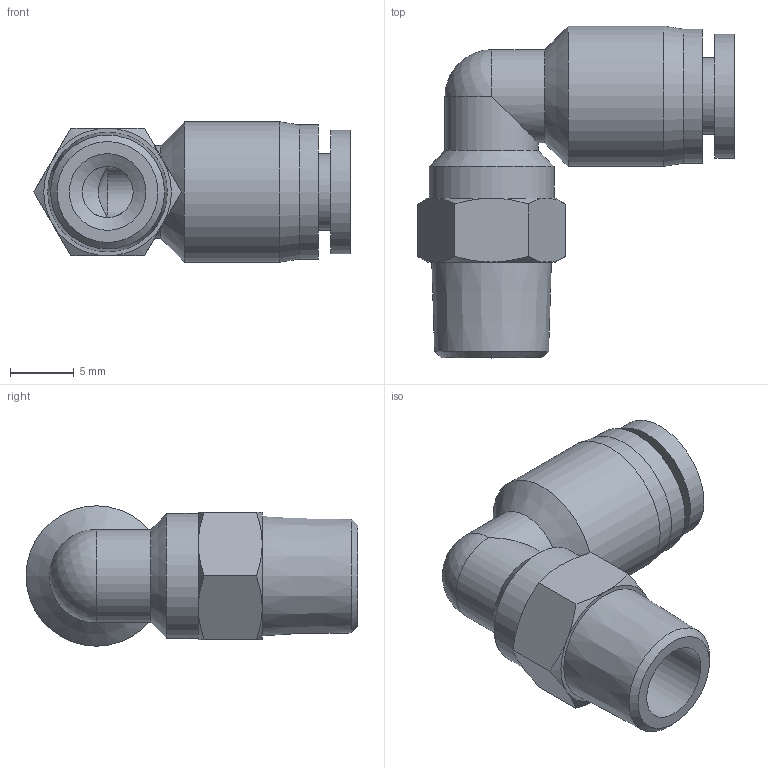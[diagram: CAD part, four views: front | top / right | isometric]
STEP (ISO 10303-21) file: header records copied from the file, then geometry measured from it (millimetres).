
FILE_DESCRIPTION((''),'2;1');
FILE_NAME('S:\UTecnico\ArchivioUT\Speciali Clienti\Speciali KONFIT\Plastica\RP\RP 72K\RP72K1804.stp','2012-05-16T09:29:35',('UT5'),(''),'Autodesk Inventor 2012','Autodesk Inventor 2012','');
FILE_SCHEMA(('AUTOMOTIVE_DESIGN { 1 0 10303 214 1 1 1 1 }'));
Length unit declared in the file: millimetre
Products named in the file (1): RP72K1804
Bounding box: 24.77 x 26 x 11 mm (x, y, z)
Volume: 2170.9 mm3; surface area: 1944.8 mm2
Topology: 1 solids, 1 shells, 43 faces, 91 edges, 54 vertices
Faces by surface type: cone 20, plane 12, cylinder 10, sphere 1
Full cylindrical faces by diameter (mm): 4 x2, 6 x2, 7.3 x2, 9.7 x1, 9.8 x1, 10.5 x1, 11 x1
Entity records: 1063 total; most frequent: CARTESIAN_POINT 230, DIRECTION 168, ORIENTED_EDGE 140, AXIS2_PLACEMENT_3D 81, EDGE_CURVE 70, EDGE_LOOP 65, VERTEX_POINT 49, FACE_OUTER_BOUND 43
